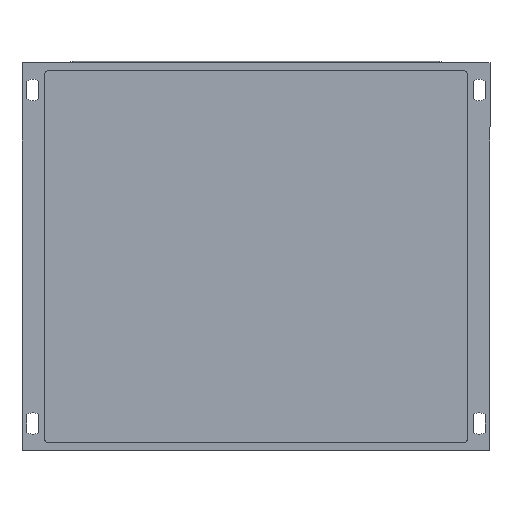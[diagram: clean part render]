
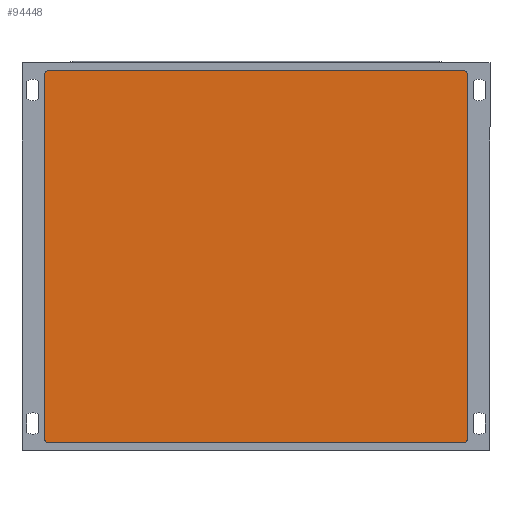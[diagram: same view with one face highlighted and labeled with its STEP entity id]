
A CAD part, front view. The second image highlights one B-rep face of the part: STEP entity #94448.
In plain terms, the highlighted planar face has unit normal (0, -1, -0.007).
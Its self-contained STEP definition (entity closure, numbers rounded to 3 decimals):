
#94166=CARTESIAN_POINT('',(-4.5,-152.457,-68.326));
#94167=VERTEX_POINT('',#94166);
#94168=CARTESIAN_POINT('',(-5.5,-152.463,-67.326));
#94169=VERTEX_POINT('',#94168);
#94170=CARTESIAN_POINT('',(-4.5,-152.463,-67.326));
#94171=DIRECTION('',(0.,1.,0.007));
#94172=DIRECTION('',(-0.707,0.005,-0.707));
#94173=AXIS2_PLACEMENT_3D('',#94170,#94171,#94172);
#94174=CIRCLE('',#94173,1.0);
#94175=EDGE_CURVE('',#94167,#94169,#94174,.T.);
#94217=CARTESIAN_POINT('',(109.5,-152.457,-68.326));
#94218=VERTEX_POINT('',#94217);
#94225=CARTESIAN_POINT('',(109.5,-152.457,-68.326));
#94226=DIRECTION('',(-1.0,0.0,0.0));
#94227=VECTOR('',#94226,114.);
#94228=LINE('',#94225,#94227);
#94229=EDGE_CURVE('',#94218,#94167,#94228,.T.);
#94298=CARTESIAN_POINT('',(110.5,-152.463,-67.326));
#94299=VERTEX_POINT('',#94298);
#94300=CARTESIAN_POINT('',(109.5,-152.463,-67.326));
#94301=DIRECTION('',(0.,1.,0.007));
#94302=DIRECTION('',(0.707,0.005,-0.707));
#94303=AXIS2_PLACEMENT_3D('',#94300,#94301,#94302);
#94304=CIRCLE('',#94303,1.0);
#94305=EDGE_CURVE('',#94299,#94218,#94304,.T.);
#94325=CARTESIAN_POINT('',(110.5,-153.138,32.671));
#94326=VERTEX_POINT('',#94325);
#94333=CARTESIAN_POINT('',(110.5,-153.138,32.671));
#94334=DIRECTION('',(0.,0.007,-1.));
#94335=VECTOR('',#94334,100.);
#94336=LINE('',#94333,#94335);
#94337=EDGE_CURVE('',#94326,#94299,#94336,.T.);
#94347=CARTESIAN_POINT('',(-5.5,-153.138,32.671));
#94348=VERTEX_POINT('',#94347);
#94349=CARTESIAN_POINT('',(-4.5,-153.144,33.671));
#94350=VERTEX_POINT('',#94349);
#94351=CARTESIAN_POINT('',(-4.5,-153.138,32.671));
#94352=DIRECTION('',(0.,1.,0.007));
#94353=DIRECTION('',(-0.707,-0.005,0.707));
#94354=AXIS2_PLACEMENT_3D('',#94351,#94352,#94353);
#94355=CIRCLE('',#94354,1.0);
#94356=EDGE_CURVE('',#94348,#94350,#94355,.T.);
#94380=CARTESIAN_POINT('',(-5.5,-152.463,-67.326));
#94381=DIRECTION('',(0.,-0.007,1.));
#94382=VECTOR('',#94381,100.);
#94383=LINE('',#94380,#94382);
#94384=EDGE_CURVE('',#94169,#94348,#94383,.T.);
#94396=CARTESIAN_POINT('',(109.5,-153.144,33.671));
#94397=VERTEX_POINT('',#94396);
#94398=CARTESIAN_POINT('',(109.5,-153.138,32.671));
#94399=DIRECTION('',(0.,1.,0.007));
#94400=DIRECTION('',(0.707,-0.005,0.707));
#94401=AXIS2_PLACEMENT_3D('',#94398,#94399,#94400);
#94402=CIRCLE('',#94401,1.0);
#94403=EDGE_CURVE('',#94397,#94326,#94402,.T.);
#94422=CARTESIAN_POINT('',(-4.5,-153.144,33.671));
#94423=DIRECTION('',(1.0,0.0,0.0));
#94424=VECTOR('',#94423,114.);
#94425=LINE('',#94422,#94424);
#94426=EDGE_CURVE('',#94350,#94397,#94425,.T.);
#94433=CARTESIAN_POINT('',(52.5,-152.8,-17.327));
#94434=DIRECTION('',(0.,-1.,-0.007));
#94435=DIRECTION('',(0.,0.007,-1.));
#94436=AXIS2_PLACEMENT_3D('',#94433,#94434,#94435);
#94437=PLANE('',#94436);
#94438=ORIENTED_EDGE('',*,*,#94175,.F.);
#94439=ORIENTED_EDGE('',*,*,#94229,.F.);
#94440=ORIENTED_EDGE('',*,*,#94305,.F.);
#94441=ORIENTED_EDGE('',*,*,#94337,.F.);
#94442=ORIENTED_EDGE('',*,*,#94403,.F.);
#94443=ORIENTED_EDGE('',*,*,#94426,.F.);
#94444=ORIENTED_EDGE('',*,*,#94356,.F.);
#94445=ORIENTED_EDGE('',*,*,#94384,.F.);
#94446=EDGE_LOOP('',(#94438,#94439,#94440,#94441,#94442,#94443,#94444,#94445));
#94447=FACE_OUTER_BOUND('',#94446,.T.);
#94448=ADVANCED_FACE('',(#94447),#94437,.T.);
